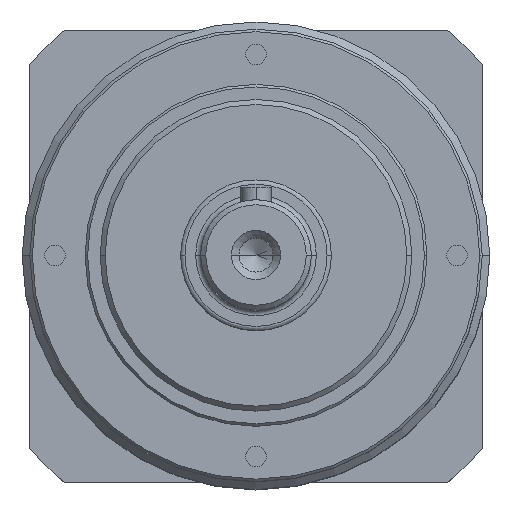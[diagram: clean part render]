
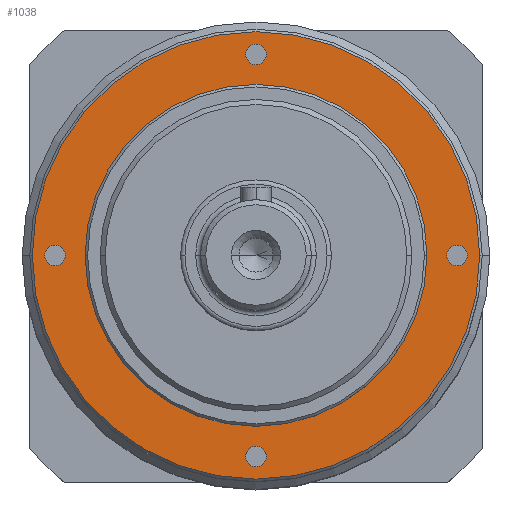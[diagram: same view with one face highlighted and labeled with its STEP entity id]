
A CAD part, top view. The second image highlights one B-rep face of the part: STEP entity #1038.
In plain terms, the highlighted planar face has unit normal (0, 0, 1).
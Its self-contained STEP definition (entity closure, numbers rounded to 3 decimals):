
#33 = EDGE_CURVE ( 'NONE', #267, #942, #785, .T. ) ;
#62 = CARTESIAN_POINT ( 'NONE',  ( -40., 0., 18. ) ) ;
#78 = VERTEX_POINT ( 'NONE', #1731 ) ;
#88 = CARTESIAN_POINT ( 'NONE',  ( 0., 0., 18. ) ) ;
#101 = EDGE_CURVE ( 'NONE', #2341, #1205, #1559, .T. ) ;
#176 = AXIS2_PLACEMENT_3D ( 'NONE', #2727, #2950, #3203 ) ;
#190 = ORIENTED_EDGE ( 'NONE', *, *, #101, .T. ) ;
#203 = FACE_BOUND ( 'NONE', #3197, .T. ) ;
#253 = AXIS2_PLACEMENT_3D ( 'NONE', #3068, #2541, #2319 ) ;
#267 = VERTEX_POINT ( 'NONE', #2017 ) ;
#317 = FACE_BOUND ( 'NONE', #892, .T. ) ;
#329 = CIRCLE ( 'NONE', #2418, 2.05 ) ;
#437 = VERTEX_POINT ( 'NONE', #1867 ) ;
#445 = CARTESIAN_POINT ( 'NONE',  ( -37.95, 0., 18. ) ) ;
#452 = CARTESIAN_POINT ( 'NONE',  ( 37.95, 0., 18. ) ) ;
#475 = ORIENTED_EDGE ( 'NONE', *, *, #2397, .F. ) ;
#550 = EDGE_LOOP ( 'NONE', ( #1952, #190 ) ) ;
#577 = VERTEX_POINT ( 'NONE', #452 ) ;
#623 = DIRECTION ( 'NONE',  ( 0., 0., 1. ) ) ;
#625 = VERTEX_POINT ( 'NONE', #1466 ) ;
#669 = AXIS2_PLACEMENT_3D ( 'NONE', #2382, #623, #3116 ) ;
#716 = DIRECTION ( 'NONE',  ( 1., 0., 0. ) ) ;
#728 = EDGE_CURVE ( 'NONE', #3092, #78, #2460, .T. ) ;
#754 = AXIS2_PLACEMENT_3D ( 'NONE', #991, #2241, #984 ) ;
#766 = CARTESIAN_POINT ( 'NONE',  ( -40., 0., 18. ) ) ;
#768 = CARTESIAN_POINT ( 'NONE',  ( -44.5, 0., 18. ) ) ;
#771 = ORIENTED_EDGE ( 'NONE', *, *, #1221, .F. ) ;
#785 = CIRCLE ( 'NONE', #754, 2.05 ) ;
#817 = EDGE_LOOP ( 'NONE', ( #940, #771 ) ) ;
#832 = FACE_OUTER_BOUND ( 'NONE', #550, .T. ) ;
#889 = DIRECTION ( 'NONE',  ( 1., 0., 0. ) ) ;
#892 = EDGE_LOOP ( 'NONE', ( #1273, #475 ) ) ;
#895 = AXIS2_PLACEMENT_3D ( 'NONE', #2442, #2234, #716 ) ;
#905 = CIRCLE ( 'NONE', #176, 2.05 ) ;
#931 = CARTESIAN_POINT ( 'NONE',  ( -2.05, 40., 18. ) ) ;
#934 = ORIENTED_EDGE ( 'NONE', *, *, #1703, .F. ) ;
#940 = ORIENTED_EDGE ( 'NONE', *, *, #3078, .F. ) ;
#942 = VERTEX_POINT ( 'NONE', #931 ) ;
#977 = FACE_BOUND ( 'NONE', #2817, .T. ) ;
#984 = DIRECTION ( 'NONE',  ( 1., 0., 0. ) ) ;
#991 = CARTESIAN_POINT ( 'NONE',  ( 0., 40., 18. ) ) ;
#1025 = ORIENTED_EDGE ( 'NONE', *, *, #33, .F. ) ;
#1038 = ADVANCED_FACE ( 'NONE', ( #1519, #977, #203, #317, #2851, #832 ), #2473, .T. ) ;
#1065 = EDGE_CURVE ( 'NONE', #78, #3092, #905, .T. ) ;
#1181 = CIRCLE ( 'NONE', #253, 2.05 ) ;
#1205 = VERTEX_POINT ( 'NONE', #768 ) ;
#1221 = EDGE_CURVE ( 'NONE', #1700, #437, #2414, .T. ) ;
#1248 = DIRECTION ( 'NONE',  ( 0., 0., 1. ) ) ;
#1250 = DIRECTION ( 'NONE',  ( 0., 0., 1. ) ) ;
#1273 = ORIENTED_EDGE ( 'NONE', *, *, #2233, .F. ) ;
#1304 = DIRECTION ( 'NONE',  ( 0., 0., 1. ) ) ;
#1349 = EDGE_CURVE ( 'NONE', #2090, #577, #1181, .T. ) ;
#1397 = DIRECTION ( 'NONE',  ( 1., 0., 0. ) ) ;
#1466 = CARTESIAN_POINT ( 'NONE',  ( -42.05, 0., 18. ) ) ;
#1478 = AXIS2_PLACEMENT_3D ( 'NONE', #2156, #2163, #2901 ) ;
#1519 = FACE_BOUND ( 'NONE', #817, .T. ) ;
#1559 = CIRCLE ( 'NONE', #1478, 44.5 ) ;
#1579 = DIRECTION ( 'NONE',  ( 1., 0., 0. ) ) ;
#1615 = DIRECTION ( 'NONE',  ( 0., 0., 1. ) ) ;
#1700 = VERTEX_POINT ( 'NONE', #1855 ) ;
#1703 = EDGE_CURVE ( 'NONE', #942, #267, #329, .T. ) ;
#1709 = AXIS2_PLACEMENT_3D ( 'NONE', #766, #1248, #2252 ) ;
#1731 = CARTESIAN_POINT ( 'NONE',  ( 2.05, -40., 18. ) ) ;
#1741 = DIRECTION ( 'NONE',  ( 1., 0., 0. ) ) ;
#1801 = ORIENTED_EDGE ( 'NONE', *, *, #728, .F. ) ;
#1823 = DIRECTION ( 'NONE',  ( 1., 0., 0. ) ) ;
#1831 = DIRECTION ( 'NONE',  ( 0., 0., 1. ) ) ;
#1855 = CARTESIAN_POINT ( 'NONE',  ( 34., 0., 18. ) ) ;
#1867 = CARTESIAN_POINT ( 'NONE',  ( -34., 0., 18. ) ) ;
#1952 = ORIENTED_EDGE ( 'NONE', *, *, #2680, .T. ) ;
#1988 = CIRCLE ( 'NONE', #3075, 34. ) ;
#1996 = CIRCLE ( 'NONE', #3136, 2.05 ) ;
#2002 = AXIS2_PLACEMENT_3D ( 'NONE', #62, #1831, #1579 ) ;
#2017 = CARTESIAN_POINT ( 'NONE',  ( 2.05, 40., 18. ) ) ;
#2037 = CIRCLE ( 'NONE', #1709, 2.05 ) ;
#2088 = CARTESIAN_POINT ( 'NONE',  ( 0., 40., 18. ) ) ;
#2090 = VERTEX_POINT ( 'NONE', #2783 ) ;
#2117 = CIRCLE ( 'NONE', #2002, 2.05 ) ;
#2139 = EDGE_LOOP ( 'NONE', ( #1025, #934 ) ) ;
#2156 = CARTESIAN_POINT ( 'NONE',  ( 0., 0., 18. ) ) ;
#2163 = DIRECTION ( 'NONE',  ( 0., 0., 1. ) ) ;
#2233 = EDGE_CURVE ( 'NONE', #2463, #625, #2117, .T. ) ;
#2234 = DIRECTION ( 'NONE',  ( 0., 0., 1. ) ) ;
#2241 = DIRECTION ( 'NONE',  ( 0., 0., 1. ) ) ;
#2252 = DIRECTION ( 'NONE',  ( 1., 0., 0. ) ) ;
#2278 = CARTESIAN_POINT ( 'NONE',  ( -2.05, -40., 18. ) ) ;
#2297 = AXIS2_PLACEMENT_3D ( 'NONE', #3039, #1250, #1741 ) ;
#2319 = DIRECTION ( 'NONE',  ( 1., 0., 0. ) ) ;
#2329 = DIRECTION ( 'NONE',  ( 1., 0., 0. ) ) ;
#2336 = AXIS2_PLACEMENT_3D ( 'NONE', #3158, #2395, #1397 ) ;
#2341 = VERTEX_POINT ( 'NONE', #2600 ) ;
#2349 = DIRECTION ( 'NONE',  ( 0., 0., 1. ) ) ;
#2382 = CARTESIAN_POINT ( 'NONE',  ( 0., -40., 18. ) ) ;
#2384 = ORIENTED_EDGE ( 'NONE', *, *, #2653, .F. ) ;
#2395 = DIRECTION ( 'NONE',  ( 0., 0., 1. ) ) ;
#2397 = EDGE_CURVE ( 'NONE', #625, #2463, #2037, .T. ) ;
#2414 = CIRCLE ( 'NONE', #2297, 34. ) ;
#2418 = AXIS2_PLACEMENT_3D ( 'NONE', #2088, #2349, #2329 ) ;
#2428 = CIRCLE ( 'NONE', #2336, 44.5 ) ;
#2442 = CARTESIAN_POINT ( 'NONE',  ( 0., 0., 18. ) ) ;
#2460 = CIRCLE ( 'NONE', #669, 2.05 ) ;
#2463 = VERTEX_POINT ( 'NONE', #445 ) ;
#2473 = PLANE ( 'NONE',  #895 ) ;
#2541 = DIRECTION ( 'NONE',  ( 0., 0., 1. ) ) ;
#2600 = CARTESIAN_POINT ( 'NONE',  ( 44.5, 0., 18. ) ) ;
#2653 = EDGE_CURVE ( 'NONE', #577, #2090, #1996, .T. ) ;
#2680 = EDGE_CURVE ( 'NONE', #1205, #2341, #2428, .T. ) ;
#2727 = CARTESIAN_POINT ( 'NONE',  ( 0., -40., 18. ) ) ;
#2783 = CARTESIAN_POINT ( 'NONE',  ( 42.05, 0., 18. ) ) ;
#2817 = EDGE_LOOP ( 'NONE', ( #2878, #2384 ) ) ;
#2851 = FACE_BOUND ( 'NONE', #2139, .T. ) ;
#2878 = ORIENTED_EDGE ( 'NONE', *, *, #1349, .F. ) ;
#2901 = DIRECTION ( 'NONE',  ( 1., 0., 0. ) ) ;
#2950 = DIRECTION ( 'NONE',  ( 0., 0., 1. ) ) ;
#2997 = ORIENTED_EDGE ( 'NONE', *, *, #1065, .F. ) ;
#3039 = CARTESIAN_POINT ( 'NONE',  ( 0., 0., 18. ) ) ;
#3068 = CARTESIAN_POINT ( 'NONE',  ( 40., 0., 18. ) ) ;
#3075 = AXIS2_PLACEMENT_3D ( 'NONE', #88, #1304, #1823 ) ;
#3078 = EDGE_CURVE ( 'NONE', #437, #1700, #1988, .T. ) ;
#3092 = VERTEX_POINT ( 'NONE', #2278 ) ;
#3116 = DIRECTION ( 'NONE',  ( 1., 0., 0. ) ) ;
#3136 = AXIS2_PLACEMENT_3D ( 'NONE', #3149, #1615, #889 ) ;
#3149 = CARTESIAN_POINT ( 'NONE',  ( 40., 0., 18. ) ) ;
#3158 = CARTESIAN_POINT ( 'NONE',  ( 0., 0., 18. ) ) ;
#3197 = EDGE_LOOP ( 'NONE', ( #2997, #1801 ) ) ;
#3203 = DIRECTION ( 'NONE',  ( 1., 0., 0. ) ) ;
